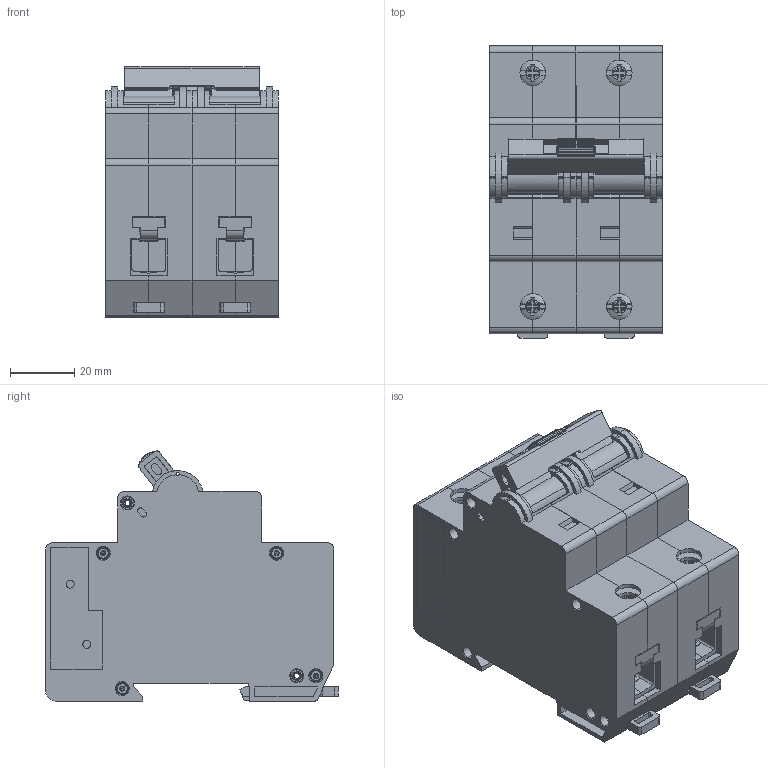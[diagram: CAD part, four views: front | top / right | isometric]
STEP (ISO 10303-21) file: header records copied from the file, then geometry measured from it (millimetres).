
FILE_DESCRIPTION (( 'STEP AP214' ), '1' );
FILE_NAME ('ﾂﾌ125 2ﾕ.STEP', '2013-04-03T12:33:23', ( '1' ), ( 'keaz' ), 'SwSTEP 2.0', 'SolidWorks 2007', '' );
FILE_SCHEMA (( 'AUTOMOTIVE_DESIGN' ));
Length unit declared in the file: millimetre
Products named in the file (18): øòèôò_Ïî óìîë÷àíèþ; Ñêîáà 2-3-4 ïîëþñà_2-õ; âûâîîä_Ïî óìîë÷àíèþ; Âñòàâêà 2_Ïî óìîë÷àíèþ; Áîêîâèíà ëåâàÿ_ëåâàÿ áîêîâèíà; ÂÌ125 1Õ_Ñ çàùåëêîé äëÿ 2-3-4 ïîëþñîâ; ﾂﾌ125 2ﾕ; çàùåëêà; Çàãëóøêà 1_Ïî óìîë÷àíèþ; Áîêîâèíà ïðàâàÿ_Ïî óìîë÷àíèþ; Âñòàâêà_Ïî óìîë÷àíèþ; Êîëîäêà_Ïî óìîë÷àíèþ; 鎔艜; 鎗鵻罻; Çàãëóøêà 2_Ïî óìîë÷àíèþ; Çàêëåïêà 1 ïîëþñ_Äëÿ ñáîðêè; Ðó÷êà; Çàêëåïêà 2-3-4 ïîëþñà_2-õ
Assembly tree (27 placements, depth 3):
  ﾂﾌ125 2ﾕ
    Âñòàâêà 2_Ïî óìîë÷àíèþ  x2
    鎗鵻罻  x2
    Ñêîáà 2-3-4 ïîëþñà_2-õ
    Çàêëåïêà 2-3-4 ïîëþñà_2-õ  x2
    ÂÌ125 1Õ_Ñ çàùåëêîé äëÿ 2-3-4 ïîëþñîâ  x2
      çàùåëêà
      Êîëîäêà_Ïî óìîë÷àíèþ
      鎔艜
      Áîêîâèíà ïðàâàÿ_Ïî óìîë÷àíèþ
      âûâîîä_Ïî óìîë÷àíèþ
      Áîêîâèíà ëåâàÿ_ëåâàÿ áîêîâèíà
      Çàêëåïêà 1 ïîëþñ_Äëÿ ñáîðêè
      Ðó÷êà
      Âñòàâêà_Ïî óìîë÷àíèþ
      Çàãëóøêà 2_Ïî óìîë÷àíèþ
      Çàãëóøêà 1_Ïî óìîë÷àíèþ
    øòèôò_Ïî óìîë÷àíèþ
Bounding box: 54 x 91.35 x 78.15 mm (x, y, z)
Volume: 228788.8 mm3; surface area: 106394.2 mm2
Topology: 42 solids, 42 shells, 2234 faces, 5785 edges, 3726 vertices
Faces by surface type: plane 1333, cylinder 697, torus 136, cone 68
Entity records: 29865 total; most frequent: CARTESIAN_POINT 5316, DIRECTION 5056, ORIENTED_EDGE 4988, EDGE_CURVE 2494, VECTOR 1734, LINE 1734, AXIS2_PLACEMENT_3D 1661, VERTEX_POINT 1627
